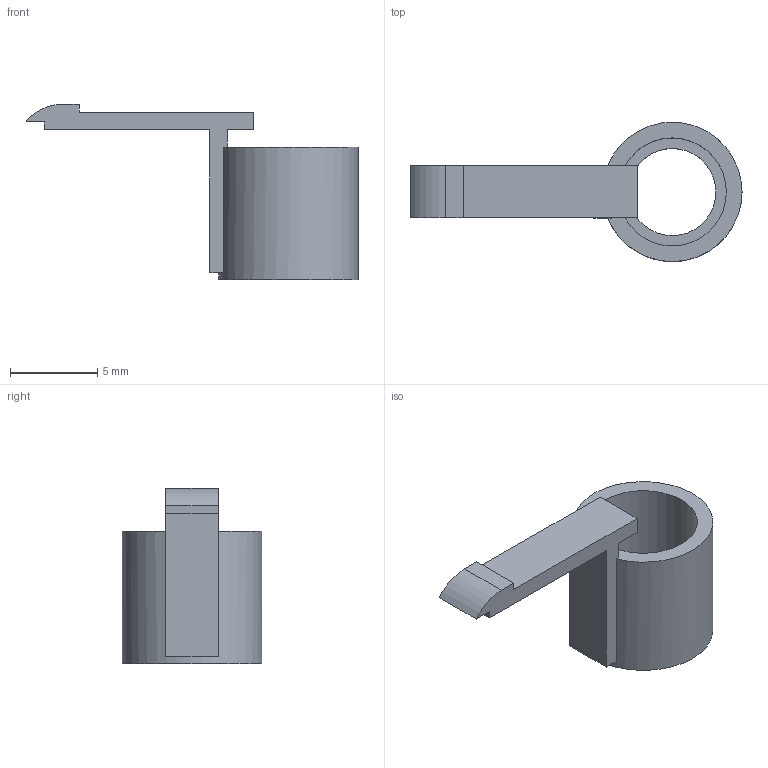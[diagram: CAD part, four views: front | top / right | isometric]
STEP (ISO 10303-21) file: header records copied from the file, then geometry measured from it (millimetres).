
FILE_DESCRIPTION(/* description */ ('EOS PA 2200, unfilled PA12; requested grade, RPS availability to confirm | SLS; bond support arm to wall | Original LED intact at (-26,15,0.1);
FILE_NAME(/* name */ '16_LED_support.step',/* time_stamp */ '2026-09-04T21:00:01-07:00',/* author */ (''),/* organization */ (''),/* preprocessor_version */ 'ST-DEVELOPER v20.1',/* originating_system */ 'Autodesk Translation Framework v15.8.0.0',/* authorisation */ '');
FILE_SCHEMA (('AUTOMOTIVE_DESIGN { 1 0 10303 214 3 1 1 }'));
Length unit declared in the file: centimetre
Products named in the file (2): 2026-09-04-21-00-01-500; 2026-09-04-21-00-01-500_1
Assembly tree (1 placements, depth 2):
  2026-09-04-21-00-01-500
    2026-09-04-21-00-01-500_1
Bounding box: 19.05 x 8 x 10.05 mm (x, y, z)
Volume: 216.9 mm3; surface area: 525.3 mm2
Topology: 1 solids, 1 shells, 20 faces, 51 edges, 34 vertices
Faces by surface type: plane 16, cylinder 4
Full cylindrical faces by diameter (mm): 5 x1, 6.2 x1, 8 x1
Entity records: 662 total; most frequent: CARTESIAN_POINT 108, DIRECTION 107, ORIENTED_EDGE 102, EDGE_CURVE 51, LINE 41, VECTOR 41, VERTEX_POINT 34, AXIS2_PLACEMENT_3D 33
